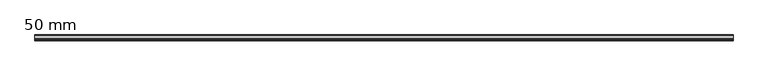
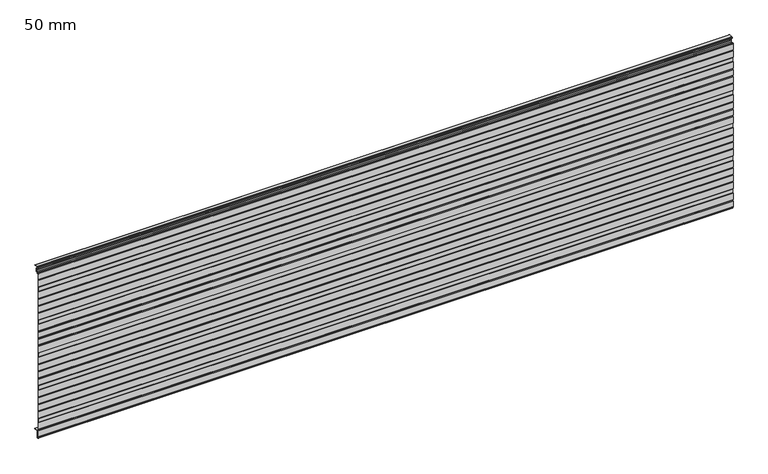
"""IFC4 building model written with IfcOpenShell, lengths in millimetres: plate geometry, HIANSA PANEL - H20.F02.002-PANELES DE FACHADA HORIZONTAL - PANEL PERFILADO - Panel de Muro Cortina : 50 mm."""

from ifc_helpers import new_model, si_unit, point, frame, frame_2d, origin, place, context, project, spatial, polyline, circle_curve, trimmed, segment, composite_curve, outline, extrude, source, transform, mapped, element, save


def plate_50_mm_0243a9b0(model_context):
    return source(origin(), model_context, "Body", "SweptSolid", [
        extrude(outline(polyline([(-33.7836621, 1123.0800953), (-33.012002, 1123.5800953), (-13.6987386, 1123.5800953), (-12.8994266, 1123.0800953), (-33.7836621, 1123.0800953)])), frame((-2200.0, 0.0, 0.0), z_axis=(1.0, 0.0, 0.0), x_axis=(0.0, 1.0, 0.0)), (0.0, 0.0, 1.0), 4400.0),
        extrude(outline(polyline([(-33.8274011, 25.6210465), (-12.9205789, 25.6210465), (-13.7002592, 25.1210465), (-33.0111357, 25.1210465), (-33.8274011, 25.6210465)])), frame((-2200.0, 0.0, 0.0), z_axis=(1.0, 0.0, 0.0), x_axis=(0.0, 1.0, 0.0)), (0.0, 0.0, 1.0), 4400.0),
        extrude(outline(composite_curve([segment(trimmed(circle_curve(frame_2d((-36.3367084, 23.0802198)), 2.54), [point((-38.8767084, 23.0802198))], [point((-36.3367084, 25.6202198))], False, "CARTESIAN"), True, "CONTINUOUS"), segment(polyline([(-36.3367084, 25.6202198), (-33.8260515, 25.6202198), (-33.0095828, 25.1200953), (-36.336632, 25.1202198)]), True, "CONTINUOUS"), segment(trimmed(circle_curve(frame_2d((-36.3367084, 23.0802198)), 2.04), [point((-36.336632, 25.1202198))], [point((-38.3767084, 23.0802198))], True, "CARTESIAN"), True, "CONTINUOUS"), segment(polyline([(-38.3767084, 23.0802198), (-38.3767084, -18.7009512)]), True, "CONTINUOUS"), segment(trimmed(circle_curve(frame_2d((-39.3767084, -18.7009512)), 1.0), [point((-38.3767084, -18.7009512))], [point((-39.3767084, -19.7009512))], False, "CARTESIAN"), True, "CONTINUOUS"), segment(polyline([(-39.3767084, -19.7009512), (-43.1267084, -19.7009512)]), True, "CONTINUOUS"), segment(trimmed(circle_curve(frame_2d((-43.1267084, -18.7009512)), 1.0), [point((-43.1267084, -19.7009512))], [point((-44.1267084, -18.7009512))], False, "CARTESIAN"), True, "CONTINUOUS"), segment(polyline([(-44.1267084, -18.7009512), (-44.1267084, -10.5354413)]), True, "CONTINUOUS"), segment(trimmed(circle_curve(frame_2d((-45.1267084, -10.5354413)), 1.0), [point((-44.1267084, -10.5354413))], [point((-45.1267084, -9.5354413))], True, "CARTESIAN"), True, "CONTINUOUS"), segment(polyline([(-45.1267084, -9.5354413), (-47.5159365, -9.5354413)]), True, "CONTINUOUS"), segment(trimmed(circle_curve(frame_2d((-47.5159365, -7.6351946)), 1.9002467), [point((-47.5159365, -9.5354413))], [point((-49.3594466, -8.0960721))], False, "CARTESIAN"), True, "CONTINUOUS"), segment(polyline([(-49.3594466, -8.0960721), (-49.9990488, -5.5376633), (-49.9990488, 33.6845589), (-48.9990488, 37.6845589), (-49.9990488, 41.6845589), (-49.9990488, 84.9067811), (-48.9990488, 87.9067811), (-48.9990488, 113.0187811), (-49.9990488, 116.0187811), (-49.9990488, 159.2410033), (-48.9990488, 163.2410033), (-49.9990488, 167.2410033), (-49.9990488, 206.4632255), (-48.9990488, 210.4632255), (-49.9990488, 214.4632255), (-49.9990488, 253.6854477), (-48.9990488, 257.6854477), (-49.9990488, 261.6854477), (-49.9990488, 304.9076699), (-48.9990488, 307.9076699), (-48.9990488, 333.0196699), (-49.9990488, 336.0196699), (-49.9990488, 379.2418921), (-48.9990488, 383.2418921), (-49.9990488, 387.2418921), (-49.9990488, 426.4641143), (-48.9990488, 430.4641143), (-49.9990488, 434.4641143), (-49.9990488, 473.6863365), (-48.9990488, 477.6863365), (-49.9990488, 481.6863365), (-49.9990488, 524.9085587), (-48.9990488, 527.9085587), (-48.9990488, 553.0205587), (-49.9990488, 556.0205587), (-49.9990488, 599.2427809), (-48.9990488, 603.2427809), (-49.9990488, 607.2427809), (-49.9990488, 646.4650031), (-48.9990488, 650.4650031), (-49.9990488, 654.4650031), (-49.9990488, 693.6872253), (-48.9990488, 697.6872253), (-49.9990488, 701.6872253), (-49.9990488, 744.9094475), (-48.9990488, 747.9094475), (-48.9990488, 773.0214475), (-49.9990488, 776.0214475), (-49.9990488, 819.2436697), (-48.9990488, 823.2436697), (-49.9990488, 827.2436697), (-49.9990488, 866.4658919), (-48.9990488, 870.4658919), (-49.9990488, 874.4658919), (-49.9990488, 913.6881141), (-48.9990488, 917.6881141), (-49.9990488, 921.6881141), (-49.9990488, 964.9103363), (-48.9990488, 967.9103363), (-48.9990488, 993.0223363), (-49.9990488, 996.0223363), (-49.9990488, 1039.2445585), (-48.9990488, 1043.2445585), (-49.9990488, 1047.2445585), (-49.9990488, 1086.4667807), (-49.3593999, 1089.0253764)]), True, "CONTINUOUS"), segment(trimmed(circle_curve(frame_2d((-47.5161291, 1088.5645587)), 1.9), [point((-49.3593999, 1089.0253764))], [point((-47.5161291, 1090.4645587))], False, "CARTESIAN"), True, "CONTINUOUS"), segment(polyline([(-47.5161291, 1090.4645587), (-45.3767084, 1090.4645587)]), True, "CONTINUOUS"), segment(trimmed(circle_curve(frame_2d((-45.3767084, 1089.4645587)), 1.0), [point((-45.3767084, 1090.4645587))], [point((-44.3767084, 1089.4645587))], False, "CARTESIAN"), True, "CONTINUOUS"), segment(polyline([(-44.3767084, 1089.4645587), (-44.3767084, 1080.7990488)]), True, "CONTINUOUS"), segment(trimmed(circle_curve(frame_2d((-43.3767084, 1080.7990488)), 1.0), [point((-44.3767084, 1080.7990488))], [point((-43.3767084, 1079.7990488))], True, "CARTESIAN"), True, "CONTINUOUS"), segment(polyline([(-43.3767084, 1079.7990488), (-39.1267084, 1079.7990488)]), True, "CONTINUOUS"), segment(trimmed(circle_curve(frame_2d((-39.1267084, 1080.7990488)), 1.0), [point((-39.1267084, 1079.7990488))], [point((-38.1267084, 1080.7990488))], True, "CARTESIAN"), True, "CONTINUOUS"), segment(polyline([(-38.1267084, 1080.7990488), (-38.1267084, 1082.4003519)]), True, "CONTINUOUS"), segment(trimmed(circle_curve(frame_2d((-36.1267084, 1082.4003519)), 2.0), [point((-38.1267084, 1082.4003519))], [point((-37.2738613, 1084.038656))], False, "CARTESIAN"), True, "CONTINUOUS"), segment(polyline([(-37.2738613, 1084.038656), (-31.2163437, 1088.2801754)]), True, "CONTINUOUS"), segment(trimmed(circle_curve(frame_2d((-32.0767084, 1089.5089035)), 1.5), [point((-31.2163437, 1088.2801754))], [point((-30.5767084, 1089.5089035))], True, "CARTESIAN"), True, "CONTINUOUS"), segment(polyline([(-30.5767084, 1089.5089035), (-30.5767084, 1098.7402031), (-29.6767084, 1100.2990488), (-30.5767084, 1101.8578945), (-30.5767084, 1111.0891941)]), True, "CONTINUOUS"), segment(trimmed(circle_curve(frame_2d((-32.0767084, 1111.0891941)), 1.5), [point((-30.5767084, 1111.0891941))], [point((-31.2163437, 1112.3179221))], True, "CARTESIAN"), True, "CONTINUOUS"), segment(polyline([(-31.2163437, 1112.3179221), (-37.2738613, 1116.5594416)]), True, "CONTINUOUS"), segment(trimmed(circle_curve(frame_2d((-36.1267084, 1118.1977457)), 2.0), [point((-37.2738613, 1116.5594416))], [point((-38.1267084, 1118.1977457))], False, "CARTESIAN"), True, "CONTINUOUS"), segment(polyline([(-38.1267084, 1118.1977457), (-38.1267084, 1121.5800953)]), True, "CONTINUOUS"), segment(trimmed(circle_curve(frame_2d((-36.1267084, 1121.5800953)), 2.0), [point((-38.1267084, 1121.5800953))], [point((-36.1267084, 1123.5800953))], False, "CARTESIAN"), True, "CONTINUOUS"), segment(polyline([(-36.1267084, 1123.5800953), (-33.0095828, 1123.5800953), (-33.7812429, 1123.0800953), (-36.1267084, 1123.0800953)]), True, "CONTINUOUS"), segment(trimmed(circle_curve(frame_2d((-36.1267084, 1121.5800953)), 1.5), [point((-36.1267084, 1123.0800953))], [point((-37.6267084, 1121.5800953))], True, "CARTESIAN"), True, "CONTINUOUS"), segment(polyline([(-37.6267084, 1121.5800953), (-37.6267084, 1118.1977457)]), True, "CONTINUOUS"), segment(trimmed(circle_curve(frame_2d((-36.1267084, 1118.1977457)), 1.5), [point((-37.6267084, 1118.1977457))], [point((-36.987073, 1116.9690176))], True, "CARTESIAN"), True, "CONTINUOUS"), segment(polyline([(-36.987073, 1116.9690176), (-30.9295555, 1112.7274982)]), True, "CONTINUOUS"), segment(trimmed(circle_curve(frame_2d((-32.0767084, 1111.0891941)), 2.0), [point((-30.9295555, 1112.7274982))], [point((-30.0767084, 1111.0891941))], False, "CARTESIAN"), True, "CONTINUOUS"), segment(polyline([(-30.0767084, 1111.0891941), (-30.0767084, 1101.9918691), (-29.3880333, 1100.7990488)]), True, "CONTINUOUS"), segment(trimmed(circle_curve(frame_2d((-30.2540587, 1100.2990488)), 1.0), [point((-29.3880333, 1100.7990488))], [point((-29.3880333, 1099.7990488))], False, "CARTESIAN"), True, "CONTINUOUS"), segment(polyline([(-29.3880333, 1099.7990488), (-30.0767084, 1098.6062285), (-30.0767084, 1089.5089035)]), True, "CONTINUOUS"), segment(trimmed(circle_curve(frame_2d((-32.0767084, 1089.5089035)), 2.0), [point((-30.0767084, 1089.5089035))], [point((-30.9295555, 1087.8705994))], False, "CARTESIAN"), True, "CONTINUOUS"), segment(polyline([(-30.9295555, 1087.8705994), (-36.987073, 1083.62908)]), True, "CONTINUOUS"), segment(trimmed(circle_curve(frame_2d((-36.1267084, 1082.4003519)), 1.5), [point((-36.987073, 1083.62908))], [point((-37.6267084, 1082.4003519))], True, "CARTESIAN"), True, "CONTINUOUS"), segment(polyline([(-37.6267084, 1082.4003519), (-37.6267084, 1080.7990488)]), True, "CONTINUOUS"), segment(trimmed(circle_curve(frame_2d((-39.1267084, 1080.7990488)), 1.5), [point((-37.6267084, 1080.7990488))], [point((-39.1267084, 1079.2990488))], False, "CARTESIAN"), True, "CONTINUOUS"), segment(polyline([(-39.1267084, 1079.2990488), (-43.3767084, 1079.2990488)]), True, "CONTINUOUS"), segment(trimmed(circle_curve(frame_2d((-43.3767084, 1080.7990488)), 1.5), [point((-43.3767084, 1079.2990488))], [point((-44.8767084, 1080.7990488))], False, "CARTESIAN"), True, "CONTINUOUS"), segment(polyline([(-44.8767084, 1080.7990488), (-44.8767084, 1089.9645587), (-47.5161291, 1089.9645587)]), True, "CONTINUOUS"), segment(trimmed(circle_curve(frame_2d((-47.5161291, 1088.5645587)), 1.4), [point((-47.5161291, 1089.9645587))], [point((-48.8743286, 1088.9041086))], True, "CARTESIAN"), True, "CONTINUOUS"), segment(polyline([(-48.8743286, 1088.9041086), (-49.4990488, 1086.4052279), (-49.4990488, 1047.3061113), (-48.4836606, 1043.2445585), (-49.4990488, 1039.1830057), (-49.4990488, 996.1034751), (-48.4990488, 993.1034751), (-48.4990488, 967.8291975), (-49.4990488, 964.8291975), (-49.4990488, 921.7496669), (-48.4836606, 917.6881141), (-49.4990488, 913.6265613), (-49.4990488, 874.5274447), (-48.4836606, 870.4658919), (-49.4990488, 866.4043391), (-49.4990488, 827.3052225), (-48.4836606, 823.2436697), (-49.4990488, 819.1821169), (-49.4990488, 776.1025863), (-48.4990488, 773.1025863), (-48.4990488, 747.8283087), (-49.4990488, 744.8283087), (-49.4990488, 701.7487781), (-48.4836606, 697.6872253), (-49.4990488, 693.6256725), (-49.4990488, 654.5265559), (-48.4836606, 650.4650031), (-49.4990488, 646.4034503), (-49.4990488, 607.3043337), (-48.4836606, 603.2427809), (-49.4990488, 599.1812281), (-49.4990488, 556.1016975), (-48.4990488, 553.1016975), (-48.4990488, 527.8274199), (-49.4990488, 524.8274199), (-49.4990488, 481.7478893), (-48.4836606, 477.6863365), (-49.4990488, 473.6247837), (-49.4990488, 434.5256671), (-48.4836606, 430.4641143), (-49.4990488, 426.4025615), (-49.4990488, 387.3034449), (-48.4836606, 383.2418921), (-49.4990488, 379.1803393), (-49.4990488, 336.1008087), (-48.4990488, 333.1008087), (-48.4990488, 307.8265311), (-49.4990488, 304.8265311), (-49.4990488, 261.7470005), (-48.4836606, 257.6854477), (-49.4990488, 253.6238949), (-49.4990488, 214.5247783), (-48.4836606, 210.4632255), (-49.4990488, 206.4016727), (-49.4990488, 167.3025561), (-48.4836606, 163.2410033), (-49.4990488, 159.1794505), (-49.4990488, 116.0999199), (-48.4990488, 113.0999199), (-48.4990488, 87.8256423), (-49.4990488, 84.8256423), (-49.4990488, 41.7461117), (-48.4836606, 37.6845589), (-49.4990488, 33.6230061), (-49.4990488, -5.4761105), (-48.8741312, -7.9757808)]), True, "CONTINUOUS"), segment(trimmed(circle_curve(frame_2d((-47.5169431, -7.6364838)), 1.3989577), [point((-48.8741312, -7.9757808))], [point((-47.5169431, -9.0354415))], True, "CARTESIAN"), True, "CONTINUOUS"), segment(polyline([(-47.5169431, -9.0354415), (-45.1267084, -9.0354413)]), True, "CONTINUOUS"), segment(trimmed(circle_curve(frame_2d((-45.1267084, -10.5354413)), 1.5), [point((-45.1267084, -9.0354413))], [point((-43.6267084, -10.5354413))], False, "CARTESIAN"), True, "CONTINUOUS"), segment(polyline([(-43.6267084, -10.5354413), (-43.6267084, -19.2009512), (-38.8767084, -19.2009512), (-38.8767084, 23.0802198)]), True, "CONTINUOUS")], self_intersect=False)), frame((-2200.0, 0.0, 0.0), z_axis=(1.0, 0.0, 0.0), x_axis=(0.0, 1.0, 0.0)), (0.0, 0.0, 1.0), 4400.0),
    ])


if __name__ == "__main__":
    model = new_model("IFC4")
    model_context = context("Model", 3, world=origin())
    ifc_project = project(units=[si_unit("LENGTHUNIT", "METRE", prefix="MILLI")], contexts=[model_context])
    site = spatial("IfcSite", under=ifc_project)
    building = spatial("IfcBuilding", under=site)
    placement = place(None, origin())
    plate_50_mm_shape = plate_50_mm_0243a9b0(model_context)
    element("IfcPlate", 1, ObjectType="HIANSA PANEL - H20.F02.002-PANELES DE FACHADA HORIZONTAL - PANEL PERFILADO - Panel de Muro Cortina : 50 mm", at=placement, inside=building, context=model_context, shape_type="MappedRepresentation", body=[
        mapped(plate_50_mm_shape, transform((0.0, 0.0, 0.0), x_axis=(1.0, 0.0, 0.0), y_axis=(0.0, 1.0, 0.0), z_axis=(0.0, 0.0, 1.0))),
    ])
    save(model, "model.ifc")
